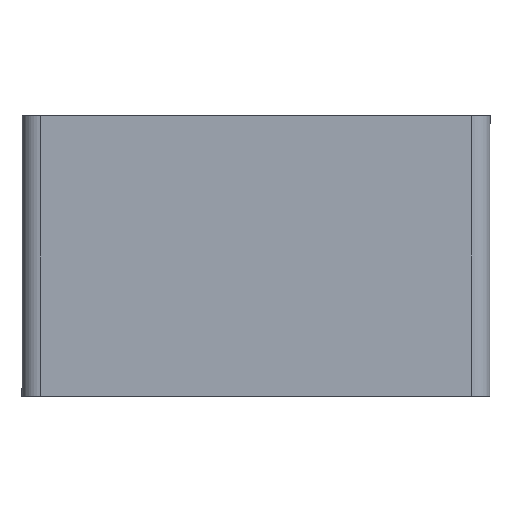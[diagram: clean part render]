
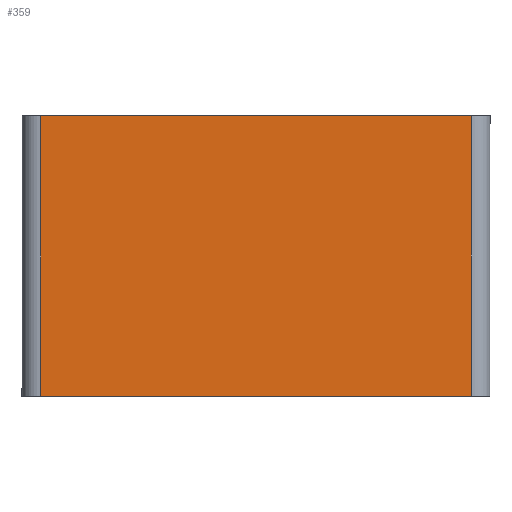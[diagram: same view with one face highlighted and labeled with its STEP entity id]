
A CAD part, left-side view. The second image highlights one B-rep face of the part: STEP entity #359.
In plain terms, the highlighted planar face has unit normal (-1, 0, 0).
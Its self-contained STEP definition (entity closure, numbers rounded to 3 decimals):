
#45 = DIRECTION ( 'NONE',  ( 0., 0., 1. ) ) ;
#77 = PLANE ( 'NONE',  #549 ) ;
#83 = CARTESIAN_POINT ( 'NONE',  ( -1.25, 0., 0. ) ) ;
#134 = DIRECTION ( 'NONE',  ( -1., 0., 0. ) ) ;
#217 = DIRECTION ( 'NONE',  ( 0., 1., 0. ) ) ;
#218 = CARTESIAN_POINT ( 'NONE',  ( -1.25, 0., 0.92 ) ) ;
#231 = DIRECTION ( 'NONE',  ( 0., -1., 0. ) ) ;
#232 = CARTESIAN_POINT ( 'NONE',  ( -1.25, 0., -0.92 ) ) ;
#248 = CARTESIAN_POINT ( 'NONE',  ( -1.25, -0.6, -1. ) ) ;
#249 = DIRECTION ( 'NONE',  ( 0., 0., 1. ) ) ;
#263 = DIRECTION ( 'NONE',  ( 0., 0., -1. ) ) ;
#271 = CARTESIAN_POINT ( 'NONE',  ( -1.25, 0.6, -1. ) ) ;
#301 = CARTESIAN_POINT ( 'NONE',  ( -1.25, 0.6, 0.92 ) ) ;
#336 = CARTESIAN_POINT ( 'NONE',  ( -1.25, -0.6, 0.92 ) ) ;
#338 = CARTESIAN_POINT ( 'NONE',  ( -1.25, -0.6, -0.92 ) ) ;
#341 = CARTESIAN_POINT ( 'NONE',  ( -1.25, 0.6, -0.92 ) ) ;
#359 = ADVANCED_FACE ( 'NONE', ( #779 ), #77, .T. ) ;
#379 = VERTEX_POINT ( 'NONE', #301 ) ;
#386 = VERTEX_POINT ( 'NONE', #341 ) ;
#389 = VERTEX_POINT ( 'NONE', #336 ) ;
#394 = VERTEX_POINT ( 'NONE', #338 ) ;
#409 = ORIENTED_EDGE ( 'NONE', *, *, #641, .T. ) ;
#430 = ORIENTED_EDGE ( 'NONE', *, *, #633, .T. ) ;
#457 = ORIENTED_EDGE ( 'NONE', *, *, #635, .T. ) ;
#466 = ORIENTED_EDGE ( 'NONE', *, *, #625, .T. ) ;
#517 = EDGE_LOOP ( 'NONE', ( #430, #409, #466, #457 ) ) ;
#549 = AXIS2_PLACEMENT_3D ( 'NONE', #83, #134, #45 ) ;
#625 = EDGE_CURVE ( 'NONE', #379, #386, #723, .T. ) ;
#633 = EDGE_CURVE ( 'NONE', #394, #389, #704, .T. ) ;
#635 = EDGE_CURVE ( 'NONE', #386, #394, #701, .T. ) ;
#641 = EDGE_CURVE ( 'NONE', #389, #379, #689, .T. ) ;
#686 = VECTOR ( 'NONE', #217, 1000. ) ;
#689 = LINE ( 'NONE', #218, #686 ) ;
#698 = VECTOR ( 'NONE', #231, 1000. ) ;
#701 = LINE ( 'NONE', #232, #698 ) ;
#702 = VECTOR ( 'NONE', #249, 1000. ) ;
#704 = LINE ( 'NONE', #248, #702 ) ;
#715 = VECTOR ( 'NONE', #263, 1000. ) ;
#723 = LINE ( 'NONE', #271, #715 ) ;
#779 = FACE_OUTER_BOUND ( 'NONE', #517, .T. ) ;
